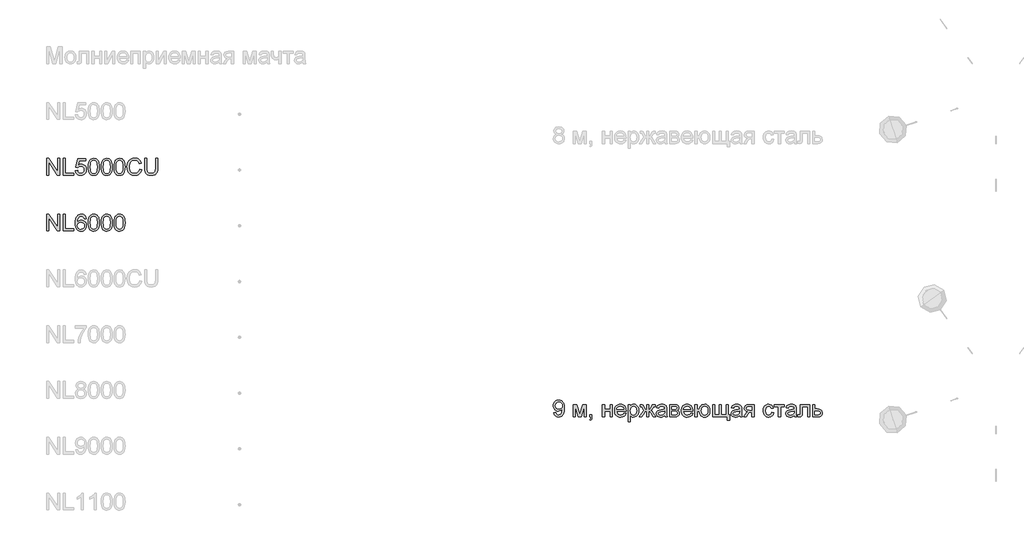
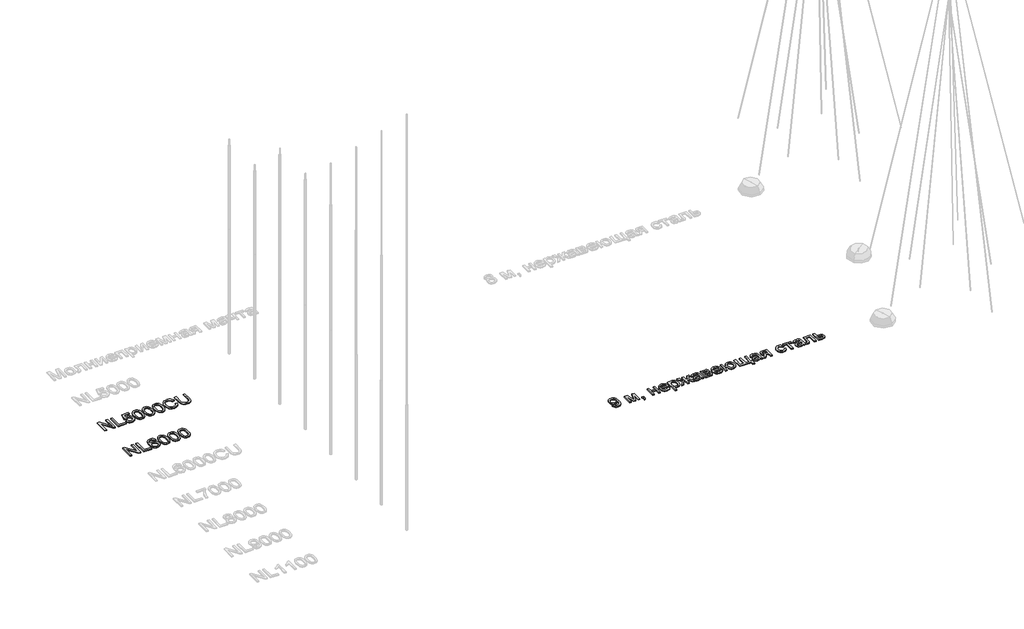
# One storey, part 38 of 124: 3 proxies.
"""IFC4 building model written with IfcOpenShell, lengths in millimetres."""

from ifc_helpers import new_model, si_unit, origin, origin_with_axes, place, context, project, spatial, polyline, outline, extrude, element, save

model = new_model("IFC4")

# Units and contexts
model_context = context("Model", 3, world=origin())
ifc_project = project(units=[si_unit("LENGTHUNIT", "METRE", prefix="MILLI")], contexts=[model_context])

# Site, building, storey
site = spatial("IfcSite", under=ifc_project)
building = spatial("IfcBuilding", under=site)
storey = spatial("IfcBuildingStorey", under=building, Name="Этаж 01", Elevation=0.0)

# Proxies
placement = place(None, origin())
element("IfcBuildingElementProxy", 1, Name="300", ObjectType="300", at=placement, inside=storey, context=model_context, shape_type="SweptSolid", body=[
    extrude(outline(polyline([(1299.8220677, -71074.498362), (1299.8220677, -70773.1294316), (1340.1419344, -70773.1294316), (1497.5954283, -71011.8848464), (1497.5954283, -70773.1294316), (1535.2665446, -70773.1294316), (1535.2665446, -71074.498362), (1494.9466779, -71074.498362), (1337.493184, -70835.6693707), (1337.493184, -71074.498362), (1299.8220677, -71074.498362)])), origin_with_axes(), (0.0, 0.0, 1.0), 20.0),
    extrude(outline(polyline([(1601.1909981, -71074.498362), (1601.1909981, -70773.1294316), (1638.8621144, -70773.1294316), (1638.8621144, -71036.8272457), (1789.5465797, -71036.8272457), (1789.5465797, -71074.498362), (1601.1909981, -71074.498362)])), origin_with_axes(), (0.0, 0.0, 1.0), 20.0),
    extrude(outline(polyline([(1817.7999169, -70994.4472399), (1855.4710332, -70989.7383503), (1862.3872147, -71012.353896), (1874.4537442, -71028.5499008), (1891.6154392, -71038.2895766), (1913.8171176, -71041.5361352), (1940.8196561, -71037.0203837), (1961.0531658, -71023.4731293), (1973.6899124, -71002.4578703), (1977.9021612, -70975.5381053), (1973.9566268, -70950.1910358), (1962.1200236, -70930.8036547), (1942.3003811, -70918.4980019), (1914.4057288, -70914.3961177), (1896.1311907, -70916.0331926), (1881.3331375, -70920.9444172), (1860.1799227, -70937.9405654), (1822.5088064, -70933.2316759), (1855.4710332, -70777.8383211), (2001.4466089, -70777.8383211), (2001.4466089, -70815.5094374), (1885.9316624, -70815.5094374), (1869.818431, -70898.5036155), (1896.728999, -70882.1696549), (1924.9271539, -70876.7250014), (1943.2729691, -70878.41266), (1960.1242638, -70883.475636), (1975.4810378, -70891.9139293), (1989.3432913, -70903.7275398), (2000.8189102, -70918.1944993), (2009.0157809, -70934.5928392), (2013.9339034, -70952.9225596), (2015.5732775, -70973.1836605), (2009.6687715, -71010.8547768), (2002.288139, -71027.6485899), (1991.9552534, -71043.0812396), (1976.3018745, -71058.8863698), (1958.0365335, -71070.1757486), (1937.1592302, -71076.9493758), (1913.6699648, -71079.2072515), (1876.6702332, -71073.4039131), (1860.9915624, -71066.14974), (1847.1936883, -71055.9938976), (1835.7134708, -71043.4422238), (1826.9877697, -71029.0005562), (1817.7999169, -70994.4472399)])), origin_with_axes(), (0.0, 0.0, 1.0), 20.0),
    extrude(outline(polyline([(2048.5355043, -70926.2419179), (2051.3038163, -70878.0033913), (2059.6087523, -70839.5321317), (2073.367539, -70810.2395278), (2092.4974027, -70789.5369685), (2117.1362993, -70777.2313158), (2147.4221846, -70773.1294316), (2170.6355385, -70775.5574527), (2191.4208712, -70782.8415162), (2208.8032955, -70794.6965135), (2221.807924, -70810.8373361), (2231.6303733, -70831.1260281), (2239.4662598, -70855.4246339), (2244.5982136, -70886.2807362), (2246.3088649, -70926.2419179), (2243.568144, -70974.2045331), (2235.3459814, -71012.5838222), (2221.6699683, -71041.9040172), (2202.5676957, -71062.68935), (2177.8736167, -71075.0777761), (2147.4221846, -71079.2072515), (2126.6736401, -71077.4138268), (2108.2795403, -71072.0335526), (2092.2398853, -71063.066429), (2078.5546751, -71050.5124559), (2065.4212879, -71027.8187353), (2056.040297, -70999.5424055), (2050.4117025, -70965.6834664), (2048.5355043, -70926.2419179)]), holes=[polyline([(2086.2066206, -70926.1683415), (2090.6212045, -70985.4249339), (2096.1394345, -71005.6929326), (2103.8649564, -71019.7207329), (2123.5834313, -71036.0822847), (2147.4221846, -71041.5361352), (2171.2609379, -71036.0638906), (2190.9794128, -71019.6471565), (2198.7049347, -71005.5963636), (2204.2231646, -70985.3329634), (2208.6377486, -70926.1683415), (2204.3703174, -70868.2453214), (2199.0360285, -70848.0440013), (2191.568024, -70833.682808), (2171.8863373, -70816.5211129), (2146.9807262, -70810.8005479), (2123.3994903, -70815.8405312), (2104.4535675, -70830.9604812), (2096.4705282, -70846.595466), (2090.7683573, -70867.6751043), (2086.2066206, -70926.1683415)])]), origin_with_axes(), (0.0, 0.0, 1.0), 20.0),
    extrude(outline(polyline([(2279.2710917, -70926.2419179), (2282.0394037, -70878.0033913), (2290.3443397, -70839.5321317), (2304.1031263, -70810.2395278), (2323.2329901, -70789.5369685), (2347.8718867, -70777.2313158), (2378.157772, -70773.1294316), (2401.3711259, -70775.5574527), (2422.1564586, -70782.8415162), (2439.5388829, -70794.6965135), (2452.5435114, -70810.8373361), (2462.3659607, -70831.1260281), (2470.2018471, -70855.4246339), (2475.333801, -70886.2807362), (2477.0444523, -70926.2419179), (2474.3037314, -70974.2045331), (2466.0815688, -71012.5838222), (2452.4055556, -71041.9040172), (2433.303283, -71062.68935), (2408.6092041, -71075.0777761), (2378.157772, -71079.2072515), (2357.4092274, -71077.4138268), (2339.0151277, -71072.0335526), (2322.9754727, -71063.066429), (2309.2902625, -71050.5124559), (2296.1568752, -71027.8187353), (2286.7758844, -70999.5424055), (2281.1472898, -70965.6834664), (2279.2710917, -70926.2419179)]), holes=[polyline([(2316.942208, -70926.1683415), (2321.3567919, -70985.4249339), (2326.8750218, -71005.6929326), (2334.6005437, -71019.7207329), (2354.3190187, -71036.0822847), (2378.157772, -71041.5361352), (2401.9965252, -71036.0638906), (2421.7150002, -71019.6471565), (2429.4405221, -71005.5963636), (2434.958752, -70985.3329634), (2439.373336, -70926.1683415), (2435.1059048, -70868.2453214), (2429.7716159, -70848.0440013), (2422.3036114, -70833.682808), (2402.6219246, -70816.5211129), (2377.7163136, -70810.8005479), (2354.1350777, -70815.8405312), (2335.1891549, -70830.9604812), (2327.2061156, -70846.595466), (2321.5039447, -70867.6751043), (2316.942208, -70926.1683415)])]), origin_with_axes(), (0.0, 0.0, 1.0), 20.0),
    extrude(outline(polyline([(2510.006679, -70926.2419179), (2512.774991, -70878.0033913), (2521.0799271, -70839.5321317), (2534.8387137, -70810.2395278), (2553.9685775, -70789.5369685), (2578.6074741, -70777.2313158), (2608.8933593, -70773.1294316), (2632.1067132, -70775.5574527), (2652.892046, -70782.8415162), (2670.2744702, -70794.6965135), (2683.2790988, -70810.8373361), (2693.101548, -70831.1260281), (2700.9374345, -70855.4246339), (2706.0693884, -70886.2807362), (2707.7800396, -70926.2419179), (2705.0393188, -70974.2045331), (2696.8171562, -71012.5838222), (2683.141143, -71041.9040172), (2664.0388704, -71062.68935), (2639.3447915, -71075.0777761), (2608.8933593, -71079.2072515), (2588.1448148, -71077.4138268), (2569.750715, -71072.0335526), (2553.7110601, -71063.066429), (2540.0258498, -71050.5124559), (2526.8924626, -71027.8187353), (2517.5114717, -70999.5424055), (2511.8828772, -70965.6834664), (2510.006679, -70926.2419179)]), holes=[polyline([(2547.6777953, -70926.1683415), (2552.0923793, -70985.4249339), (2557.6106092, -71005.6929326), (2565.3361311, -71019.7207329), (2585.054606, -71036.0822847), (2608.8933593, -71041.5361352), (2632.7321126, -71036.0638906), (2652.4505876, -71019.6471565), (2660.1761095, -71005.5963636), (2665.6943394, -70985.3329634), (2670.1089233, -70926.1683415), (2665.8414922, -70868.2453214), (2660.5072033, -70848.0440013), (2653.0391988, -70833.682808), (2633.357512, -70816.5211129), (2608.4519009, -70810.8005479), (2584.870665, -70815.8405312), (2565.9247423, -70830.9604812), (2557.941703, -70846.595466), (2552.2395321, -70867.6751043), (2547.6777953, -70926.1683415)])]), origin_with_axes(), (0.0, 0.0, 1.0), 20.0),
    extrude(outline(polyline([(2966.7689642, -70967.371125), (3004.4400805, -70977.0832097), (2996.9858716, -71000.510395), (2987.0576563, -71020.9807288), (2974.6554345, -71038.494211), (2959.7792063, -71053.0508417), (2942.7646641, -71064.494271), (2923.9475, -71072.6681491), (2903.3277142, -71077.5724759), (2880.9053066, -71079.2072515), (2837.2101226, -71074.2592387), (2802.5096534, -71059.4152002), (2775.9117851, -71035.1901708), (2756.524404, -71002.0991854), (2744.6878008, -70963.1956644), (2740.7422664, -70921.5330284), (2745.2028356, -70877.5895241), (2758.5845432, -70839.6424963), (2780.1884133, -70808.8967585), (2809.3154703, -70786.5571244), (2843.8595897, -70772.9546876), (2881.714647, -70768.420542), (2923.018598, -70774.2882598), (2940.9873342, -70781.6229071), (2957.1672442, -70791.8914133), (2971.2916135, -70804.8224654), (2983.0937278, -70820.1447505), (2999.731191, -70857.9630196), (2962.0600747, -70866.9393403), (2949.0002639, -70839.4677523), (2931.1579871, -70820.6229971), (2908.3125152, -70809.724493), (2880.243119, -70806.0916583), (2847.8878975, -70810.1199662), (2821.3084233, -70822.2048897), (2801.139293, -70841.0772361), (2788.0151028, -70865.4678123), (2780.8138127, -70893.0405679), (2778.4133827, -70921.459452), (2781.2552711, -70956.2610888), (2789.7809364, -70986.353836), (2804.3122752, -71010.5880624), (2825.1711843, -71027.8141368), (2850.1779629, -71038.1056356), (2877.1529102, -71041.5361352), (2908.5976238, -71036.8640339), (2934.8000189, -71022.8477299), (2954.5828731, -70999.634376), (2966.7689642, -70967.371125)])), origin_with_axes(), (0.0, 0.0, 1.0), 20.0),
    extrude(outline(polyline([(3254.0112261, -70773.1294316), (3291.6823424, -70773.1294316), (3291.6823424, -70946.9904625), (3289.1255625, -70987.7058023), (3281.4552229, -71019.0585453), (3267.1262192, -71043.2467865), (3244.593447, -71062.4686208), (3213.801724, -71075.0225938), (3174.6958679, -71079.2072515), (3136.4453375, -71075.5652198), (3105.8651466, -71064.6391245), (3082.9460983, -71046.8060448), (3067.6789955, -71022.4430597), (3059.098148, -70989.7659415), (3056.2378655, -70946.9904625), (3056.2378655, -70773.1294316), (3093.9089818, -70773.1294316), (3093.9089818, -70945.6660873), (3095.7667858, -70979.5204279), (3101.3401981, -71003.0924667), (3111.4385588, -71019.4172303), (3126.8712085, -71031.529745), (3146.9943537, -71039.0345377), (3171.1642008, -71041.5361352), (3209.4791106, -71036.5881224), (3223.8219098, -71030.4031064), (3234.9549387, -71021.7440839), (3243.2920644, -71009.5671899), (3249.2471542, -70992.8285591), (3254.0112261, -70945.6660873), (3254.0112261, -70773.1294316)])), origin_with_axes(), (0.0, 0.0, 1.0), 20.0),
])
element("IfcBuildingElementProxy", 2, Name="300", ObjectType="300", at=placement, inside=storey, context=model_context, shape_type="SweptSolid", body=[
    extrude(outline(polyline([(1299.8220677, -72074.498362), (1299.8220677, -71773.1294316), (1340.1419344, -71773.1294316), (1497.5954283, -72011.8848464), (1497.5954283, -71773.1294316), (1535.2665446, -71773.1294316), (1535.2665446, -72074.498362), (1494.9466779, -72074.498362), (1337.493184, -71835.6693707), (1337.493184, -72074.498362), (1299.8220677, -72074.498362)])), origin_with_axes(), (0.0, 0.0, 1.0), 20.0),
    extrude(outline(polyline([(1601.1909981, -72074.498362), (1601.1909981, -71773.1294316), (1638.8621144, -71773.1294316), (1638.8621144, -72036.8272457), (1789.5465797, -72036.8272457), (1789.5465797, -72074.498362), (1601.1909981, -72074.498362)])), origin_with_axes(), (0.0, 0.0, 1.0), 20.0),
    extrude(outline(polyline([(2010.864388, -71853.1805537), (1973.1932717, -71857.8894432), (1967.1232187, -71839.219432), (1958.9194503, -71826.4723209), (1941.8313316, -71814.7184911), (1921.1747575, -71810.8005479), (1903.6635746, -71813.0814162), (1887.1824612, -71819.9240213), (1873.0282014, -71834.3357985), (1861.4675097, -71854.1738351), (1853.6592144, -71882.2340343), (1850.7621437, -71921.3122992), (1865.8728966, -71903.6815546), (1883.9818878, -71891.2563402), (1904.0774418, -71883.8895033), (1925.1478831, -71881.4338909), (1943.2476773, -71883.1123525), (1959.9495198, -71888.1477373), (1975.2534108, -71896.5400454), (1989.1593503, -71908.2892766), (2000.7154434, -71922.6964552), (2008.9697957, -71939.0626055), (2013.9224071, -71957.3877274), (2015.5732775, -71977.6718209), (2012.4646747, -72004.6467682), (2003.1388661, -72029.6535468), (1988.368404, -72050.8619438), (1968.9258405, -72066.4417463), (1945.6940925, -72076.0158752), (1919.5560768, -72079.2072515), (1897.0991802, -72077.0919301), (1876.817386, -72070.7459657), (1858.710694, -72060.1693583), (1842.7791044, -72045.362108), (1829.7905707, -72025.6988153), (1820.5130466, -72000.554081), (1814.9465322, -71969.9279049), (1813.0910274, -71933.820287), (1815.1511665, -71893.339472), (1821.3315841, -71858.7907541), (1831.6322799, -71830.1741334), (1846.0532541, -71807.4896099), (1861.6836404, -71792.4570319), (1879.8064272, -71781.7194761), (1900.4216145, -71775.2769427), (1923.5292023, -71773.1294316), (1956.5833996, -71778.4453264), (1983.0525091, -71794.3930109), (2001.5937617, -71819.7216862), (2010.864388, -71853.1805537)]), holes=[polyline([(1850.7621437, -71977.0832097), (1852.9418445, -71993.7758552), (1859.480947, -72009.7143427), (1869.63449, -72023.417947), (1882.6575127, -72033.4059431), (1898.3752709, -72039.5035872), (1916.6130208, -72041.5361352), (1941.4726466, -72037.3238864), (1961.0163776, -72024.6871399), (1973.6807153, -72004.8215121), (1977.9021612, -71978.9226197), (1973.7358976, -71954.0629938), (1961.2371068, -71935.107874), (1941.362282, -71923.1057239), (1915.0679164, -71919.1050072), (1890.2450788, -71923.1057239), (1869.4873372, -71935.107874), (1855.4434421, -71953.6031413), (1850.7621437, -71977.0832097)])]), origin_with_axes(), (0.0, 0.0, 1.0), 20.0),
    extrude(outline(polyline([(2048.5355043, -71926.2419179), (2051.3038163, -71878.0033913), (2059.6087523, -71839.5321317), (2073.367539, -71810.2395278), (2092.4974027, -71789.5369685), (2117.1362993, -71777.2313158), (2147.4221846, -71773.1294316), (2170.6355385, -71775.5574527), (2191.4208712, -71782.8415162), (2208.8032955, -71794.6965135), (2221.807924, -71810.8373361), (2231.6303733, -71831.1260281), (2239.4662598, -71855.4246339), (2244.5982136, -71886.2807362), (2246.3088649, -71926.2419179), (2243.568144, -71974.2045331), (2235.3459814, -72012.5838222), (2221.6699683, -72041.9040172), (2202.5676957, -72062.68935), (2177.8736167, -72075.0777761), (2147.4221846, -72079.2072515), (2126.6736401, -72077.4138268), (2108.2795403, -72072.0335526), (2092.2398853, -72063.066429), (2078.5546751, -72050.5124559), (2065.4212879, -72027.8187353), (2056.040297, -71999.5424055), (2050.4117025, -71965.6834664), (2048.5355043, -71926.2419179)]), holes=[polyline([(2086.2066206, -71926.1683415), (2090.6212045, -71985.4249339), (2096.1394345, -72005.6929326), (2103.8649564, -72019.7207329), (2123.5834313, -72036.0822847), (2147.4221846, -72041.5361352), (2171.2609379, -72036.0638906), (2190.9794128, -72019.6471565), (2198.7049347, -72005.5963636), (2204.2231646, -71985.3329634), (2208.6377486, -71926.1683415), (2204.3703174, -71868.2453214), (2199.0360285, -71848.0440013), (2191.568024, -71833.682808), (2171.8863373, -71816.5211129), (2146.9807262, -71810.8005479), (2123.3994903, -71815.8405312), (2104.4535675, -71830.9604812), (2096.4705282, -71846.595466), (2090.7683573, -71867.6751043), (2086.2066206, -71926.1683415)])]), origin_with_axes(), (0.0, 0.0, 1.0), 20.0),
    extrude(outline(polyline([(2279.2710917, -71926.2419179), (2282.0394037, -71878.0033913), (2290.3443397, -71839.5321317), (2304.1031263, -71810.2395278), (2323.2329901, -71789.5369685), (2347.8718867, -71777.2313158), (2378.157772, -71773.1294316), (2401.3711259, -71775.5574527), (2422.1564586, -71782.8415162), (2439.5388829, -71794.6965135), (2452.5435114, -71810.8373361), (2462.3659607, -71831.1260281), (2470.2018471, -71855.4246339), (2475.333801, -71886.2807362), (2477.0444523, -71926.2419179), (2474.3037314, -71974.2045331), (2466.0815688, -72012.5838222), (2452.4055556, -72041.9040172), (2433.303283, -72062.68935), (2408.6092041, -72075.0777761), (2378.157772, -72079.2072515), (2357.4092274, -72077.4138268), (2339.0151277, -72072.0335526), (2322.9754727, -72063.066429), (2309.2902625, -72050.5124559), (2296.1568752, -72027.8187353), (2286.7758844, -71999.5424055), (2281.1472898, -71965.6834664), (2279.2710917, -71926.2419179)]), holes=[polyline([(2316.942208, -71926.1683415), (2321.3567919, -71985.4249339), (2326.8750218, -72005.6929326), (2334.6005437, -72019.7207329), (2354.3190187, -72036.0822847), (2378.157772, -72041.5361352), (2401.9965252, -72036.0638906), (2421.7150002, -72019.6471565), (2429.4405221, -72005.5963636), (2434.958752, -71985.3329634), (2439.373336, -71926.1683415), (2435.1059048, -71868.2453214), (2429.7716159, -71848.0440013), (2422.3036114, -71833.682808), (2402.6219246, -71816.5211129), (2377.7163136, -71810.8005479), (2354.1350777, -71815.8405312), (2335.1891549, -71830.9604812), (2327.2061156, -71846.595466), (2321.5039447, -71867.6751043), (2316.942208, -71926.1683415)])]), origin_with_axes(), (0.0, 0.0, 1.0), 20.0),
    extrude(outline(polyline([(2510.006679, -71926.2419179), (2512.774991, -71878.0033913), (2521.0799271, -71839.5321317), (2534.8387137, -71810.2395278), (2553.9685775, -71789.5369685), (2578.6074741, -71777.2313158), (2608.8933593, -71773.1294316), (2632.1067132, -71775.5574527), (2652.892046, -71782.8415162), (2670.2744702, -71794.6965135), (2683.2790988, -71810.8373361), (2693.101548, -71831.1260281), (2700.9374345, -71855.4246339), (2706.0693884, -71886.2807362), (2707.7800396, -71926.2419179), (2705.0393188, -71974.2045331), (2696.8171562, -72012.5838222), (2683.141143, -72041.9040172), (2664.0388704, -72062.68935), (2639.3447915, -72075.0777761), (2608.8933593, -72079.2072515), (2588.1448148, -72077.4138268), (2569.750715, -72072.0335526), (2553.7110601, -72063.066429), (2540.0258498, -72050.5124559), (2526.8924626, -72027.8187353), (2517.5114717, -71999.5424055), (2511.8828772, -71965.6834664), (2510.006679, -71926.2419179)]), holes=[polyline([(2547.6777953, -71926.1683415), (2552.0923793, -71985.4249339), (2557.6106092, -72005.6929326), (2565.3361311, -72019.7207329), (2585.054606, -72036.0822847), (2608.8933593, -72041.5361352), (2632.7321126, -72036.0638906), (2652.4505876, -72019.6471565), (2660.1761095, -72005.5963636), (2665.6943394, -71985.3329634), (2670.1089233, -71926.1683415), (2665.8414922, -71868.2453214), (2660.5072033, -71848.0440013), (2653.0391988, -71833.682808), (2633.357512, -71816.5211129), (2608.4519009, -71810.8005479), (2584.870665, -71815.8405312), (2565.9247423, -71830.9604812), (2557.941703, -71846.595466), (2552.2395321, -71867.6751043), (2547.6777953, -71926.1683415)])]), origin_with_axes(), (0.0, 0.0, 1.0), 20.0),
])
element("IfcBuildingElementProxy", 3, Name="300", ObjectType="300", at=placement, inside=storey, context=model_context, shape_type="SweptSolid", body=[
    extrude(outline(polyline([(10390.4042886, -75332.1183562), (10428.0754049, -75327.4094666), (10434.5133398, -75348.7926076), (10444.9979767, -75363.3515375), (10459.2717981, -75371.7116559), (10477.0772867, -75374.498362), (10493.0525623, -75372.7049373), (10507.5747041, -75367.3246631), (10519.6412335, -75358.9461507), (10528.2496722, -75348.1580111), (10540.573719, -75315.4165136), (10546.0183726, -75271.7121325), (10545.7976434, -75264.3544926), (10532.7470296, -75280.283783), (10515.668108, -75292.9021355), (10495.7932832, -75301.1242981), (10474.3549599, -75303.8650189), (10456.4598001, -75302.1911558), (10440.0039786, -75297.1695666), (10424.9874954, -75288.8002512), (10411.4103505, -75277.0832097), (10400.1600593, -75262.6300458), (10392.1241369, -75246.0523634), (10387.3025835, -75227.3501625), (10385.6953991, -75206.523443), (10387.3807585, -75185.0023463), (10392.4368366, -75165.6885415), (10400.8636336, -75148.5820288), (10412.6611493, -75133.682808), (10426.9970508, -75121.61168), (10443.0390051, -75112.9894457), (10460.7870121, -75107.8161052), (10480.2410718, -75106.0916583), (10508.3380592, -75110.0279957), (10533.9150549, -75121.8370077), (10555.307393, -75140.9300833), (10570.8504073, -75166.7186111), (10580.3141716, -75202.3663765), (10583.4687597, -75251.0371644), (10580.3233686, -75302.6418113), (10570.8871955, -75342.5294166), (10555.2430136, -75372.5026022), (10533.4735965, -75394.3639897), (10506.5170433, -75407.7181062), (10475.3114531, -75412.1694783), (10443.1033844, -75406.9179628), (10417.4068271, -75391.1634164), (10399.4357916, -75365.8991204), (10390.4042886, -75332.1183562)]), holes=[polyline([(10545.7976434, -75205.6405262), (10541.7325473, -75180.1095158), (10529.5372592, -75160.4646172), (10510.6097305, -75147.9382353), (10486.347913, -75143.7627746), (10461.1847845, -75148.260132), (10441.0248512, -75161.7522042), (10427.7810993, -75182.3995812), (10423.3665154, -75208.362853), (10427.541976, -75231.6405862), (10440.068358, -75250.1174594), (10459.7316506, -75262.1747918), (10485.3178434, -75266.1939026), (10509.3865229, -75262.1747918), (10528.764707, -75250.1174594), (10541.5394093, -75230.9600045), (10545.7976434, -75205.6405262)])]), origin_with_axes(), (0.0, 0.0, 1.0), 20.0),
    extrude(outline(polyline([(10743.571004, -75186.1427805), (10808.3918115, -75186.1427805), (10858.3501865, -75363.3147493), (10912.2081106, -75186.1427805), (10974.3065914, -75186.1427805), (10974.3065914, -75407.4605888), (10936.6354751, -75407.4605888), (10936.6354751, -75229.2585503), (10882.4832454, -75407.4605888), (10833.0399052, -75407.4605888), (10781.2421203, -75220.723688), (10781.2421203, -75407.4605888), (10743.571004, -75407.4605888), (10743.571004, -75186.1427805)])), origin_with_axes(), (0.0, 0.0, 1.0), 20.0),
    extrude(outline(polyline([(11040.2310449, -75407.4605888), (11040.2310449, -75369.7894725), (11077.9021612, -75369.7894725), (11077.9021612, -75407.4605888), (11076.209904, -75429.0092766), (11071.1331325, -75445.9778337), (11062.377541, -75458.9916592), (11049.648824, -75468.6761528), (11040.2310449, -75454.5494842), (11048.3980252, -75447.7252731), (11054.0634079, -75438.2891), (11058.9930267, -75407.4605888), (11040.2310449, -75407.4605888)])), origin_with_axes(), (0.0, 0.0, 1.0), 20.0),
    extrude(outline(polyline([(11266.2577427, -75186.1427805), (11303.928859, -75186.1427805), (11303.928859, -75270.9027922), (11402.8155393, -75270.9027922), (11402.8155393, -75186.1427805), (11440.4866556, -75186.1427805), (11440.4866556, -75407.4605888), (11402.8155393, -75407.4605888), (11402.8155393, -75308.5739085), (11303.928859, -75308.5739085), (11303.928859, -75407.4605888), (11266.2577427, -75407.4605888), (11266.2577427, -75186.1427805)])), origin_with_axes(), (0.0, 0.0, 1.0), 20.0),
    extrude(outline(polyline([(11651.9452265, -75341.5361352), (11688.8805788, -75346.2450248), (11675.5724476, -75374.0752977), (11654.3364594, -75394.8790245), (11625.6508609, -75407.8468649), (11589.9938985, -75412.1694783), (11566.6195962, -75410.3047764), (11545.7928768, -75404.7106709), (11527.5137401, -75395.3871615), (11511.7821863, -75382.3342485), (11499.1316442, -75365.9152152), (11490.0955427, -75346.4933451), (11484.6738818, -75324.0686383), (11482.8666615, -75298.6410946), (11484.6922759, -75272.3513275), (11490.1691191, -75249.1793603), (11499.2971911, -75229.1251931), (11512.0764919, -75212.1888257), (11527.766659, -75198.7335418), (11545.6273299, -75189.1226246), (11565.6585045, -75183.3560744), (11587.8601829, -75181.4338909), (11609.3467907, -75183.3514758), (11628.7778578, -75189.1042305), (11646.1533843, -75198.692155), (11661.4733702, -75212.1152493), (11673.9790587, -75229.0148285), (11682.9116934, -75249.0322075), (11688.2712742, -75272.1673865), (11690.0578012, -75298.4203654), (11689.837072, -75308.5739085), (11520.5377778, -75308.5739085), (11527.0584862, -75336.7720634), (11542.2060273, -75357.5022138), (11564.0674149, -75370.249325), (11590.7296625, -75374.498362), (11610.7792312, -75372.5301933), (11627.6650148, -75366.6256873), (11641.3870132, -75356.4169619), (11651.9452265, -75341.5361352)]), holes=[polyline([(11520.5377778, -75270.9027922), (11652.3866849, -75270.9027922), (11647.2915192, -75251.0003762), (11637.3035231, -75236.763343), (11615.340968, -75223.5195912), (11587.7130301, -75219.1050072), (11562.3199754, -75222.6274773), (11541.3231105, -75233.1948877), (11526.7273924, -75249.666804), (11520.5377778, -75270.9027922)])]), origin_with_axes(), (0.0, 0.0, 1.0), 20.0),
    extrude(outline(polyline([(11727.7289175, -75492.2206005), (11727.7289175, -75186.1427805), (11765.4000338, -75186.1427805), (11765.4000338, -75223.0781328), (11777.6872924, -75204.858777), (11791.446079, -75191.8449514), (11807.485734, -75184.036656), (11826.6155978, -75181.4338909), (11852.091426, -75185.0759227), (11874.3666808, -75196.0020179), (11892.5032631, -75213.5499891), (11905.563074, -75237.0576486), (11913.4541427, -75264.8143451), (11916.084499, -75295.1094274), (11913.1138519, -75327.3266932), (11904.2019106, -75356.1410504), (11889.6337836, -75380.0901683), (11869.6945794, -75397.7117159), (11846.4720285, -75408.5550377), (11822.053861, -75412.1694783), (11804.7358161, -75409.7506542), (11789.2755753, -75402.4941818), (11776.0410205, -75391.5404954), (11765.4000338, -75378.0300292), (11765.4000338, -75492.2206005), (11727.7289175, -75492.2206005)]), holes=[polyline([(11765.4000338, -75298.5675182), (11769.4743269, -75332.3390854), (11781.6972062, -75355.9571094), (11799.732621, -75369.8630489), (11821.2445207, -75374.498362), (11843.1059082, -75369.697502), (11861.6011755, -75355.2949219), (11874.2103309, -75330.8123751), (11878.4133827, -75295.771615), (11874.3114985, -75262.1839889), (11862.0058457, -75238.234871), (11843.9980221, -75223.8874732), (11822.789625, -75219.1050072), (11801.4984546, -75224.1909758), (11782.8008522, -75239.4488816), (11769.7502384, -75264.4004779), (11765.4000338, -75298.5675182)])]), origin_with_axes(), (0.0, 0.0, 1.0), 20.0),
    extrude(outline(polyline([(12095.0223015, -75186.1427805), (12095.0223015, -75280.3205712), (12108.3120385, -75278.3799937), (12116.9848566, -75272.5582611), (12137.7701893, -75232.2751827), (12150.7380296, -75207.1672365), (12162.5654358, -75193.6475732), (12176.9312277, -75188.0189786), (12197.8085309, -75186.1427805), (12212.7445399, -75186.1427805), (12212.7445399, -75224.034626), (12202.3702677, -75223.8138968), (12182.9460983, -75227.7134459), (12169.4816173, -75252.1408104), (12153.8466325, -75278.9226197), (12131.5161954, -75292.5342535), (12143.9092201, -75297.8363527), (12156.145895, -75307.194351), (12180.1501952, -75338.0780445), (12222.162319, -75407.4605888), (12178.9729728, -75407.4605888), (12137.6230365, -75339.0345377), (12126.3198622, -75321.0726993), (12116.5433982, -75310.5972594), (12106.6565696, -75305.5480791), (12095.0223015, -75303.8650189), (12095.0223015, -75407.4605888), (12057.3511852, -75407.4605888), (12057.3511852, -75303.8650189), (12045.8088876, -75305.5112909), (12035.9036648, -75310.4501066), (12026.0536244, -75320.8519701), (12014.6768737, -75338.8873849), (11973.3269375, -75407.4605888), (11930.2111676, -75407.4605888), (11972.0761387, -75338.0780445), (11996.2643799, -75307.194351), (12008.5654341, -75297.8363527), (12021.004444, -75292.5342535), (12006.620258, -75285.3237664), (11997.3128435, -75277.5246681), (11977.0057574, -75238.8970586), (11967.0729435, -75226.1683415), (11950.8125594, -75223.5931676), (11939.6289467, -75223.8138968), (11939.6289467, -75186.1427805), (11945.2943294, -75186.1427805), (11978.3301326, -75188.4972252), (11995.4734336, -75198.5036155), (12014.6768737, -75232.2751827), (12035.2414773, -75272.3007437), (12043.9142953, -75278.3156144), (12057.3511852, -75280.3205712), (12057.3511852, -75186.1427805), (12095.0223015, -75186.1427805)])), origin_with_axes(), (0.0, 0.0, 1.0), 20.0),
    extrude(outline(polyline([(12382.2645633, -75379.2072515), (12364.2659367, -75394.6399012), (12345.7338812, -75404.738262), (12326.2453325, -75410.3116742), (12305.3772263, -75412.1694783), (12273.8957246, -75407.6997121), (12250.6731736, -75394.2904133), (12236.353367, -75373.9281449), (12231.5800981, -75348.5994695), (12233.3827199, -75332.9828788), (12238.7905852, -75318.8010279), (12247.1323094, -75306.6609221), (12257.7365079, -75297.1695666), (12284.113647, -75284.8087316), (12316.7079918, -75279.1433489), (12355.2252367, -75273.1836605), (12382.0438341, -75266.1939026), (12382.2645633, -75257.8061931), (12379.6709952, -75240.993986), (12371.890291, -75229.9943143), (12354.4894727, -75221.827334), (12330.2460492, -75219.1050072), (12307.8052475, -75220.9168261), (12292.1334745, -75226.3522825), (12281.4465025, -75236.4046581), (12273.9601039, -75252.067234), (12236.2889876, -75247.3583445), (12242.8280901, -75226.7569527), (12252.58616, -75210.570145), (12266.4737053, -75198.1909158), (12285.401234, -75189.01226), (12308.5502085, -75183.3284832), (12335.1020915, -75181.4338909), (12360.5687226, -75183.107754), (12380.7562471, -75188.1293432), (12395.9773647, -75195.6801212), (12406.544775, -75204.9415504), (12413.552927, -75216.3918775), (12418.0962696, -75230.5093491), (12419.9356796, -75263.4715759), (12419.9356796, -75310.339742), (12421.848666, -75375.785949), (12429.3534587, -75407.4605888), (12391.6823424, -75407.4605888), (12382.2645633, -75379.2072515)]), holes=[polyline([(12382.2645633, -75303.8650189), (12321.4904577, -75315.4165136), (12289.0800539, -75321.5233547), (12274.4015623, -75331.4561686), (12269.2512144, -75345.9507192), (12272.0563146, -75357.1527259), (12280.4716152, -75366.3313817), (12294.3131753, -75372.4566169), (12313.3970538, -75374.498362), (12333.6305635, -75372.2450848), (12351.5096285, -75365.4852531), (12366.0041791, -75355.5248481), (12376.0841458, -75343.6698508), (12380.553912, -75331.4561686), (12382.0438341, -75314.5335968), (12382.2645633, -75303.8650189)])]), origin_with_axes(), (0.0, 0.0, 1.0), 20.0),
    extrude(outline(polyline([(12471.7334645, -75186.1427805), (12554.7276426, -75186.1427805), (12581.4082843, -75187.4027763), (12600.2346454, -75191.1827638), (12614.0854026, -75198.3196745), (12625.8392323, -75209.65044), (12633.8682569, -75224.411705), (12636.5445984, -75241.8401145), (12634.9259176, -75255.8840097), (12630.0698753, -75267.9965244), (12621.9580773, -75278.2328409), (12610.5721295, -75286.6481416), (12624.5148571, -75294.474831), (12635.8824108, -75307.0655923), (12643.4423858, -75323.427144), (12645.9623774, -75342.5662048), (12639.5796248, -75371.2793945), (12624.4044925, -75391.4945102), (12600.3817982, -75403.4690691), (12567.4563597, -75407.4605888), (12471.7334645, -75407.4605888), (12471.7334645, -75186.1427805)]), holes=[polyline([(12509.4045808, -75270.9027922), (12546.6342387, -75270.9027922), (12577.3523853, -75268.9898058), (12592.2883943, -75261.3378603), (12597.2272101, -75255.01029), (12598.8734821, -75247.5054973), (12595.9856084, -75236.2667023), (12587.3219874, -75229.0378211), (12571.6686085, -75225.1198779), (12547.8114611, -75223.8138968), (12509.4045808, -75223.8138968), (12509.4045808, -75270.9027922)]), polyline([(12509.4045808, -75369.7894725), (12555.6105594, -75369.7894725), (12580.792082, -75368.0880182), (12596.5926137, -75362.9836556), (12605.0722937, -75353.7038322), (12608.2912611, -75339.4759961), (12606.6817774, -75330.0490199), (12601.8533262, -75321.3394137), (12594.440504, -75314.5243997), (12585.0779072, -75310.7812004), (12551.9317395, -75308.5739085), (12509.4045808, -75308.5739085), (12509.4045808, -75369.7894725)])]), origin_with_axes(), (0.0, 0.0, 1.0), 20.0),
    extrude(outline(polyline([(12848.0031692, -75341.5361352), (12884.9385215, -75346.2450248), (12871.6303903, -75374.0752977), (12850.3944022, -75394.8790245), (12821.7088036, -75407.8468649), (12786.0518412, -75412.1694783), (12762.6775389, -75410.3047764), (12741.8508195, -75404.7106709), (12723.5716829, -75395.3871615), (12707.840129, -75382.3342485), (12695.1895869, -75365.9152152), (12686.1534854, -75346.4933451), (12680.7318245, -75324.0686383), (12678.9246042, -75298.6410946), (12680.7502186, -75272.3513275), (12686.2270618, -75249.1793603), (12695.3551338, -75229.1251931), (12708.1344346, -75212.1888257), (12723.8246017, -75198.7335418), (12741.6852726, -75189.1226246), (12761.7164472, -75183.3560744), (12783.9181256, -75181.4338909), (12805.4047334, -75183.3514758), (12824.8358006, -75189.1042305), (12842.211327, -75198.692155), (12857.5313129, -75212.1152493), (12870.0370014, -75229.0148285), (12878.9696361, -75249.0322075), (12884.329217, -75272.1673865), (12886.1157439, -75298.4203654), (12885.8950147, -75308.5739085), (12716.5957205, -75308.5739085), (12723.1164289, -75336.7720634), (12738.26397, -75357.5022138), (12760.1253576, -75370.249325), (12786.7876052, -75374.498362), (12806.8371739, -75372.5301933), (12823.7229575, -75366.6256873), (12837.4449559, -75356.4169619), (12848.0031692, -75341.5361352)]), holes=[polyline([(12716.5957205, -75270.9027922), (12848.4446276, -75270.9027922), (12843.349462, -75251.0003762), (12833.3614658, -75236.763343), (12811.3989107, -75223.5195912), (12783.7709728, -75219.1050072), (12758.3779181, -75222.6274773), (12737.3810532, -75233.1948877), (12722.7853351, -75249.666804), (12716.5957205, -75270.9027922)])]), origin_with_axes(), (0.0, 0.0, 1.0), 20.0),
    extrude(outline(polyline([(12923.7868602, -75186.1427805), (12961.4579765, -75186.1427805), (12961.4579765, -75270.9027922), (13003.8379824, -75270.9027922), (13013.6144464, -75232.4959119), (13022.1378124, -75217.1552327), (13033.084601, -75204.3897274), (13046.1467111, -75194.346549), (13061.0160415, -75187.1728501), (13096.1763631, -75181.4338909), (13125.7264844, -75184.8092082), (13148.3052419, -75194.9351602), (13165.7244543, -75210.9840122), (13179.7959406, -75232.1280299), (13189.0941581, -75259.9399087), (13192.1935639, -75295.9923442), (13190.5909779, -75322.8477299), (13185.7832201, -75346.2450248), (13177.7702904, -75366.1842289), (13166.5521888, -75382.6653423), (13152.5887678, -75395.5734018), (13136.33988, -75404.7934443), (13117.8055252, -75410.3254698), (13096.9857035, -75412.1694783), (13077.5822275, -75410.4404329), (13060.2067011, -75405.2532968), (13044.8591241, -75396.6080699), (13031.5394966, -75384.5047523), (13020.5789124, -75369.3848023), (13012.3084653, -75351.6896783), (13003.8379824, -75308.5739085), (12961.4579765, -75308.5739085), (12961.4579765, -75407.4605888), (12923.7868602, -75407.4605888), (12923.7868602, -75186.1427805)]), holes=[polyline([(13098.6043843, -75219.1050072), (13074.5908871, -75223.9794437), (13056.5554723, -75238.602753), (13045.2706921, -75262.018442), (13041.5090987, -75293.2700175), (13045.2982832, -75329.6811379), (13056.6658369, -75354.8902517), (13074.3793549, -75369.5963344), (13097.2064327, -75374.498362), (13120.0978899, -75369.9642164), (13138.4460044, -75356.3617796), (13150.5033368, -75332.6609821), (13154.5224476, -75297.8317542), (13151.0459627, -75263.3888024), (13140.6165082, -75238.786694), (13123.1605075, -75224.0254289), (13098.6043843, -75219.1050072)])]), origin_with_axes(), (0.0, 0.0, 1.0), 20.0),
    extrude(outline(polyline([(13239.2824593, -75186.1427805), (13276.9535756, -75186.1427805), (13276.9535756, -75369.7894725), (13361.7135873, -75369.7894725), (13361.7135873, -75186.1427805), (13399.3847036, -75186.1427805), (13399.3847036, -75369.7894725), (13484.1447153, -75369.7894725), (13484.1447153, -75186.1427805), (13521.8158316, -75186.1427805), (13521.8158316, -75369.7894725), (13545.3602793, -75369.7894725), (13545.3602793, -75468.6761528), (13507.6891629, -75468.6761528), (13507.6891629, -75407.4605888), (13239.2824593, -75407.4605888), (13239.2824593, -75186.1427805)])), origin_with_axes(), (0.0, 0.0, 1.0), 20.0),
    extrude(outline(polyline([(13724.2980817, -75379.2072515), (13706.2994551, -75394.6399012), (13687.7673996, -75404.738262), (13668.2788509, -75410.3116742), (13647.4107447, -75412.1694783), (13615.929243, -75407.6997121), (13592.706692, -75394.2904133), (13578.3868854, -75373.9281449), (13573.6136165, -75348.5994695), (13575.4162383, -75332.9828788), (13580.8241036, -75318.8010279), (13589.1658278, -75306.6609221), (13599.7700263, -75297.1695666), (13626.1471654, -75284.8087316), (13658.7415102, -75279.1433489), (13697.2587551, -75273.1836605), (13724.0773525, -75266.1939026), (13724.2980817, -75257.8061931), (13721.7045136, -75240.993986), (13713.9238094, -75229.9943143), (13696.5229911, -75221.827334), (13672.2795676, -75219.1050072), (13649.8387659, -75220.9168261), (13634.1669929, -75226.3522825), (13623.4800209, -75236.4046581), (13615.9936223, -75252.067234), (13578.322506, -75247.3583445), (13584.8616085, -75226.7569527), (13594.6196784, -75210.570145), (13608.5072237, -75198.1909158), (13627.4347524, -75189.01226), (13650.5837269, -75183.3284832), (13677.1356099, -75181.4338909), (13702.602241, -75183.107754), (13722.7897655, -75188.1293432), (13738.0108831, -75195.6801212), (13748.5782934, -75204.9415504), (13755.5864454, -75216.3918775), (13760.129788, -75230.5093491), (13761.969198, -75263.4715759), (13761.969198, -75310.339742), (13763.8821844, -75375.785949), (13771.3869771, -75407.4605888), (13733.7158608, -75407.4605888), (13724.2980817, -75379.2072515)]), holes=[polyline([(13724.2980817, -75303.8650189), (13663.5239761, -75315.4165136), (13631.1135723, -75321.5233547), (13616.4350807, -75331.4561686), (13611.2847328, -75345.9507192), (13614.089833, -75357.1527259), (13622.5051336, -75366.3313817), (13636.3466937, -75372.4566169), (13655.4305722, -75374.498362), (13675.6640819, -75372.2450848), (13693.5431469, -75365.4852531), (13708.0376975, -75355.5248481), (13718.1176642, -75343.6698508), (13722.5874304, -75331.4561686), (13724.0773525, -75314.5335968), (13724.2980817, -75303.8650189)])]), origin_with_axes(), (0.0, 0.0, 1.0), 20.0),
    extrude(outline(polyline([(13983.2870063, -75186.1427805), (13983.2870063, -75407.4605888), (13945.61589, -75407.4605888), (13945.61589, -75322.7005771), (13925.0880747, -75322.7005771), (13897.129043, -75327.483043), (13885.9638245, -75337.9124976), (13870.8622686, -75359.6359294), (13840.8430978, -75407.4605888), (13797.2858696, -75407.4605888), (13835.1041387, -75346.9807888), (13851.8059812, -75325.275751), (13867.1834486, -75315.6372428), (13841.431709, -75307.746174), (13823.3319148, -75292.7549827), (13812.6265487, -75272.8157785), (13809.0580934, -75250.0806712), (13813.9325298, -75224.2921434), (13828.5558391, -75203.8746926), (13852.4129865, -75190.5757585), (13884.9889372, -75186.1427805), (13983.2870063, -75186.1427805)]), holes=[polyline([(13945.61589, -75223.8138968), (13895.9518207, -75223.8138968), (13870.3012485, -75225.9935976), (13855.7423186, -75232.5327001), (13848.9824869, -75241.9964644), (13846.7292097, -75252.9501508), (13850.0493447, -75267.3067457), (13860.0097497, -75277.2671507), (13878.4130465, -75283.0888833), (13907.0618569, -75285.0294608), (13945.61589, -75285.0294608), (13945.61589, -75223.8138968)])]), origin_with_axes(), (0.0, 0.0, 1.0), 20.0),
    extrude(outline(polyline([(14298.7826054, -75327.4094666), (14336.4537217, -75332.1183562), (14325.9506907, -75365.6232089), (14306.2138217, -75390.9426872), (14279.1009186, -75406.8627805), (14246.4697857, -75412.1694783), (14225.3418628, -75410.318572), (14206.3982393, -75404.7658532), (14189.6389152, -75395.5113217), (14175.0638904, -75382.5549777), (14163.2663747, -75366.1405429), (14154.8395777, -75346.5117392), (14149.7834995, -75323.6685666), (14148.0981402, -75297.611025), (14150.9768168, -75264.0877782), (14159.6128466, -75235.0342976), (14174.1441854, -75211.5726234), (14194.7087889, -75194.8247956), (14219.3108974, -75184.7816171), (14245.9547509, -75181.4338909), (14277.7857405, -75186.0324159), (14303.2339775, -75199.8279907), (14321.4901215, -75222.0848514), (14331.7448321, -75252.067234), (14294.0737158, -75256.7761235), (14287.2403078, -75240.3409954), (14276.5993211, -75228.5595745), (14262.7393669, -75221.4686491), (14246.2490565, -75219.1050072), (14221.9044654, -75223.7587145), (14202.5814636, -75237.7198362), (14189.9723083, -75261.7425305), (14185.7692565, -75296.5809554), (14189.8803378, -75331.8884299), (14202.2135816, -75355.9938976), (14221.1870955, -75369.8722459), (14245.2189869, -75374.498362), (14264.7259297, -75371.6104883), (14280.7195994, -75362.9468674), (14292.3538675, -75348.2867698), (14298.7826054, -75327.4094666)])), origin_with_axes(), (0.0, 0.0, 1.0), 20.0),
    extrude(outline(polyline([(14350.5803903, -75186.1427805), (14529.5181928, -75186.1427805), (14529.5181928, -75223.8138968), (14458.8848497, -75223.8138968), (14458.8848497, -75407.4605888), (14421.2137334, -75407.4605888), (14421.2137334, -75223.8138968), (14350.5803903, -75223.8138968), (14350.5803903, -75186.1427805)])), origin_with_axes(), (0.0, 0.0, 1.0), 20.0),
    extrude(outline(polyline([(14703.7471057, -75379.2072515), (14685.7484791, -75394.6399012), (14667.2164235, -75404.738262), (14647.7278749, -75410.3116742), (14626.8597687, -75412.1694783), (14595.3782669, -75407.6997121), (14572.155716, -75394.2904133), (14557.8359093, -75373.9281449), (14553.0626404, -75348.5994695), (14554.8652622, -75332.9828788), (14560.2731275, -75318.8010279), (14568.6148518, -75306.6609221), (14579.2190503, -75297.1695666), (14605.5961894, -75284.8087316), (14638.1905341, -75279.1433489), (14676.707779, -75273.1836605), (14703.5263765, -75266.1939026), (14703.7471057, -75257.8061931), (14701.1535376, -75240.993986), (14693.3728334, -75229.9943143), (14675.972015, -75221.827334), (14651.7285915, -75219.1050072), (14629.2877898, -75220.9168261), (14613.6160168, -75226.3522825), (14602.9290449, -75236.4046581), (14595.4426463, -75252.067234), (14557.77153, -75247.3583445), (14564.3106324, -75226.7569527), (14574.0687024, -75210.570145), (14587.9562477, -75198.1909158), (14606.8837763, -75189.01226), (14630.0327509, -75183.3284832), (14656.5846339, -75181.4338909), (14682.051265, -75183.107754), (14702.2387895, -75188.1293432), (14717.459907, -75195.6801212), (14728.0273173, -75204.9415504), (14735.0354694, -75216.3918775), (14739.578812, -75230.5093491), (14741.418222, -75263.4715759), (14741.418222, -75310.339742), (14743.3312083, -75375.785949), (14750.836001, -75407.4605888), (14713.1648847, -75407.4605888), (14703.7471057, -75379.2072515)]), holes=[polyline([(14703.7471057, -75303.8650189), (14642.9730001, -75315.4165136), (14610.5625963, -75321.5233547), (14595.8841047, -75331.4561686), (14590.7337567, -75345.9507192), (14593.538857, -75357.1527259), (14601.9541576, -75366.3313817), (14615.7957177, -75372.4566169), (14634.8795962, -75374.498362), (14655.1131059, -75372.2450848), (14672.9921709, -75365.4852531), (14687.4867215, -75355.5248481), (14697.5666881, -75343.6698508), (14702.0364544, -75331.4561686), (14703.5263765, -75314.5335968), (14703.7471057, -75303.8650189)])]), origin_with_axes(), (0.0, 0.0, 1.0), 20.0),
    extrude(outline(polyline([(14812.051565, -75186.1427805), (14981.5715884, -75186.1427805), (14981.5715884, -75407.2398596), (14943.9004721, -75407.2398596), (14943.9004721, -75223.8138968), (14849.7226814, -75223.8138968), (14849.7226814, -75329.3960294), (14847.1842956, -75378.1036056), (14842.4294208, -75389.1308684), (14833.241568, -75398.6682091), (14819.2988404, -75405.2624938), (14800.2793412, -75407.4605888), (14769.6715592, -75405.5476024), (14769.6715592, -75369.7894725), (14786.5205546, -75369.7894725), (14803.553491, -75367.4718159), (14810.3593079, -75360.114176), (14812.051565, -75327.2623138), (14812.051565, -75186.1427805)])), origin_with_axes(), (0.0, 0.0, 1.0), 20.0),
    extrude(outline(polyline([(15038.0782629, -75186.1427805), (15075.7493792, -75186.1427805), (15075.7493792, -75266.1939026), (15119.1594546, -75266.1939026), (15156.7937827, -75270.9119892), (15171.9413239, -75276.8095974), (15184.6424498, -75285.066249), (15194.6856282, -75295.3968353), (15201.8593271, -75307.5162477), (15207.5982863, -75337.1215513), (15202.7146528, -75364.0781045), (15188.0637523, -75386.8224088), (15176.8318552, -75395.8516126), (15162.6706976, -75402.3010438), (15125.5606013, -75407.4605888), (15038.0782629, -75407.4605888), (15038.0782629, -75186.1427805)]), holes=[polyline([(15075.7493792, -75369.7894725), (15110.9188979, -75369.7894725), (15138.2065449, -75367.8121067), (15156.3523243, -75361.8800096), (15166.5334585, -75351.7540577), (15169.92717, -75337.1951277), (15167.4163753, -75324.889475), (15159.8839915, -75314.018562), (15143.7431689, -75306.4034047), (15115.4070583, -75303.8650189), (15075.7493792, -75303.8650189), (15075.7493792, -75369.7894725)])]), origin_with_axes(), (0.0, 0.0, 1.0), 20.0),
])

save(model, "model.ifc")
